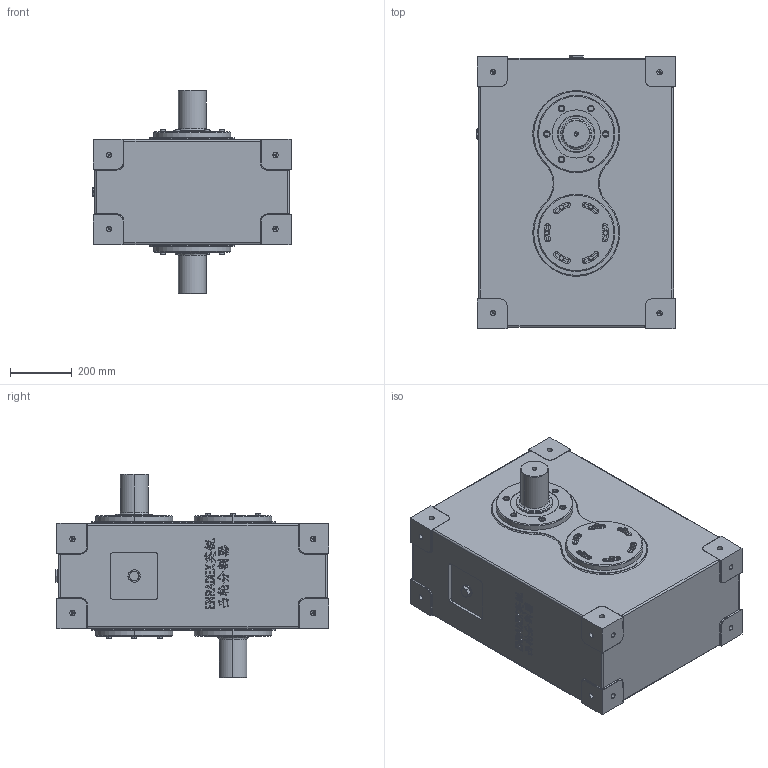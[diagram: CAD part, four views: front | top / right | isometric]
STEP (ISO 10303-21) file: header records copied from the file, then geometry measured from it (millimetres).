
FILE_DESCRIPTION (( 'STEP AP214' ), '1' );
FILE_NAME ('ER-PU320DS英锐凸轮分割器3D标准图纸(电话15062628977)A.STEP', '2022-10-27T09:48:30', ( '微软用户' ), ( '微软中国' ), 'SwSTEP 2.0', 'SolidWorks 2017', '' );
FILE_SCHEMA (( 'AUTOMOTIVE_DESIGN' ));
Length unit declared in the file: millimetre
Products named in the file (1): ER-PU320DS英锐凸轮分割器3D标准图纸(电话15062628977)A
Bounding box: 641.43 x 885.35 x 660 mm (x, y, z)
Volume: 193425121.6 mm3; surface area: 2536702.1 mm2
Topology: 1 solids, 3 shells, 1248 faces, 3144 edges, 2001 vertices
Faces by surface type: plane 508, cylinder 406, bspline 261, cone 73
Entity records: 63119 total; most frequent: CARTESIAN_POINT 26870, ORIENTED_EDGE 6260, DIRECTION 5582, EDGE_CURVE 3130, AXIS2_PLACEMENT_3D 2020, VERTEX_POINT 2001, LINE 1542, VECTOR 1542
